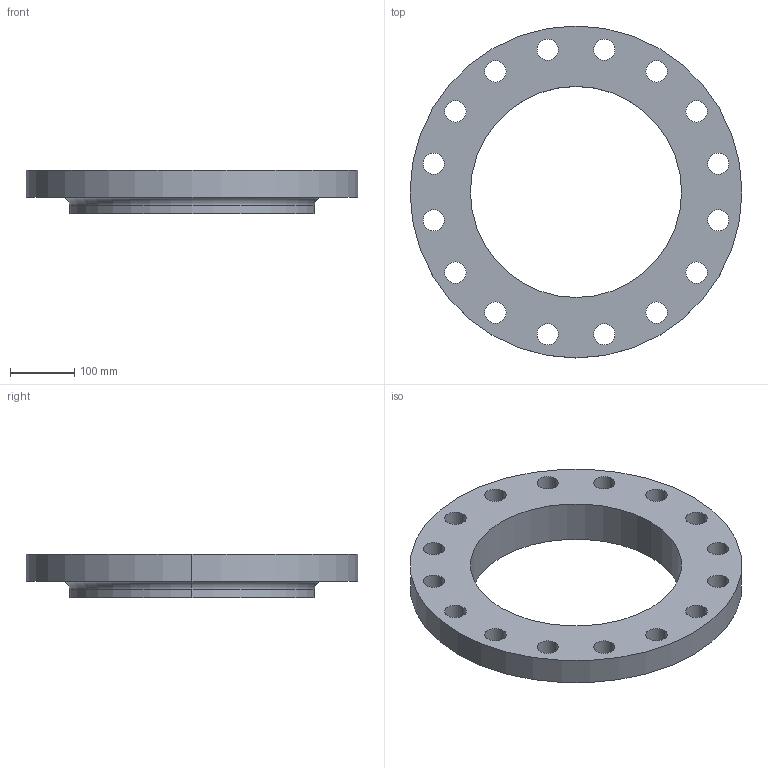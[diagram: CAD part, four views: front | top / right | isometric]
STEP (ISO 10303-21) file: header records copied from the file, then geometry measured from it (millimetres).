
FILE_DESCRIPTION (( 'STEP AP214' ), '1' );
FILE_NAME ('PN40 DN300 Type 12 - Type A Face.STEP', '2019-01-05T20:22:01', ( '' ), ( '' ), 'SwSTEP 2.0', 'SolidWorks 2019', '' );
FILE_SCHEMA (( 'AUTOMOTIVE_DESIGN' ));
Length unit declared in the file: millimetre
Products named in the file (1): PN40 DN300 Type 12 - Type A Face
Bounding box: 515 x 515 x 67 mm (x, y, z)
Volume: 5402838.8 mm3; surface area: 451082.7 mm2
Topology: 1 solids, 1 shells, 43 faces, 118 edges, 78 vertices
Faces by surface type: cylinder 38, plane 3, torus 2
Entity records: 1518 total; most frequent: DIRECTION 286, CARTESIAN_POINT 240, ORIENTED_EDGE 236, AXIS2_PLACEMENT_3D 124, EDGE_CURVE 118, CIRCLE 80, VERTEX_POINT 78, EDGE_LOOP 78
